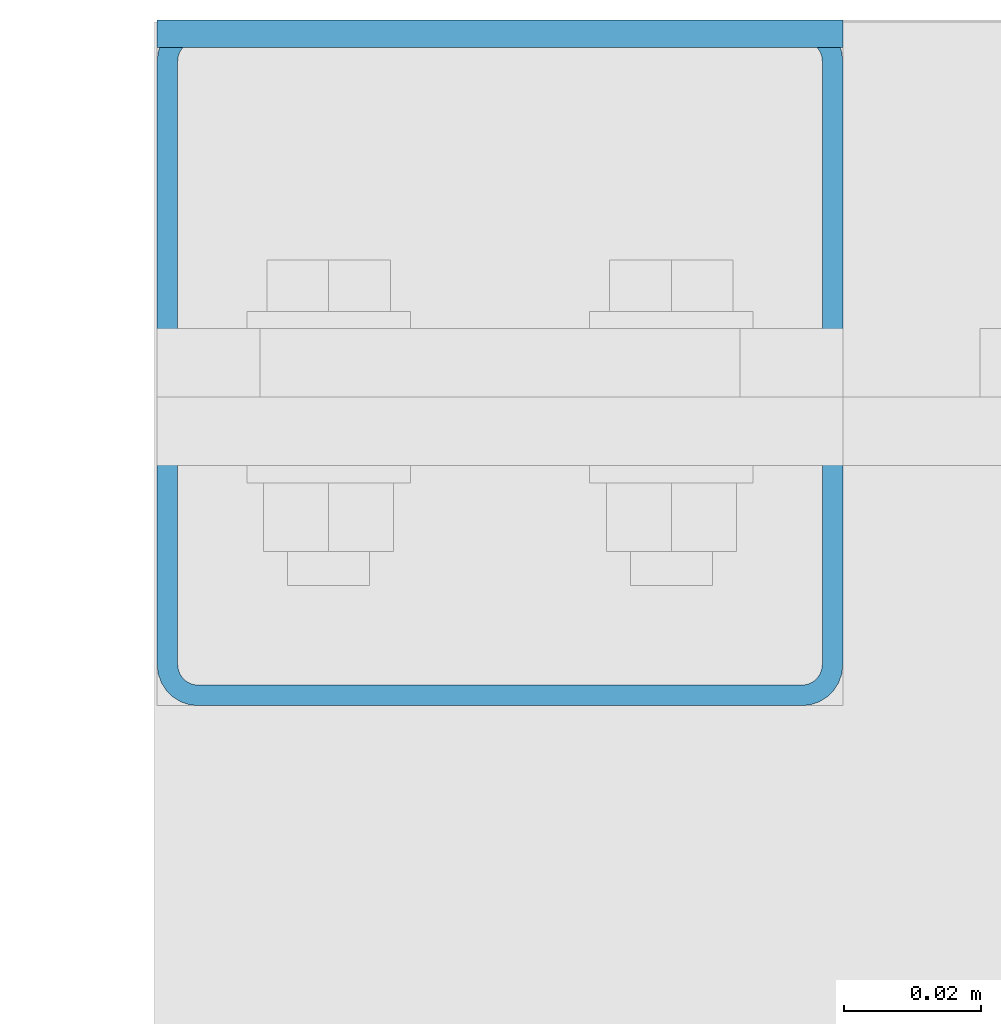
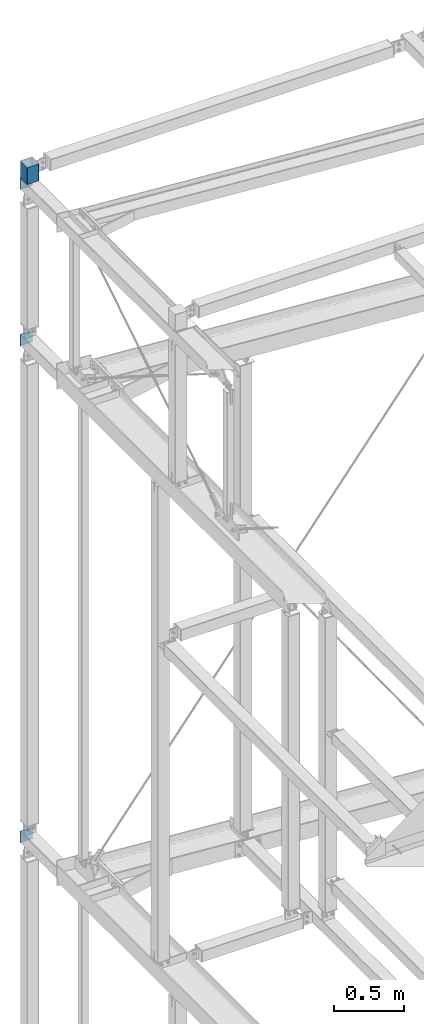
# One storey, part 78 of 271: 4 beams, 3 elements without a shape of their own.
"""IFC2X3 building model written with IfcOpenShell, lengths in millimetres."""

from ifc_helpers import new_model, si_unit, frame, origin_with_axes, origin_2d_with_axis, place, context, subcontext, project, spatial, rectangle, hollow_rectangle, extrude, clip, halfspace, material, type_object, element, aggregate, save


model = new_model("IFC2X3")

# Units and contexts
model_context = context("Model", 3, precision=1e-05, world=origin_with_axes())
body_context = subcontext(model_context, "Body", "Model", "MODEL_VIEW")
ifc_project = project(units=[si_unit("LENGTHUNIT", "METRE", prefix="MILLI"), si_unit("AREAUNIT", "SQUARE_METRE"), si_unit("VOLUMEUNIT", "CUBIC_METRE"), si_unit("MASSUNIT", "GRAM", prefix="KILO"), si_unit("TIMEUNIT", "SECOND"), si_unit("PLANEANGLEUNIT", "RADIAN"), si_unit("SOLIDANGLEUNIT", "STERADIAN"), si_unit("THERMODYNAMICTEMPERATUREUNIT", "DEGREE_CELSIUS"), si_unit("LUMINOUSINTENSITYUNIT", "LUMEN")], contexts=[model_context])

# Site, building, storey
site_placement = place(None, origin_with_axes())
site = spatial("IfcSite", under=ifc_project, at=site_placement, Name="Undefined", CompositionType="ELEMENT")
building_placement = place(site_placement, origin_with_axes())
building = spatial("IfcBuilding", under=site, at=building_placement, Name="Undefined", CompositionType="ELEMENT")
storey_placement = place(building_placement, origin_with_axes())
storey = spatial("IfcBuildingStorey", under=building, at=storey_placement, Name="Undefined", CompositionType="ELEMENT", Elevation=0.0)

# Assembly, beam
assembly_1_placement = place(storey_placement, origin_with_axes())
assembly_1 = element("IfcElementAssembly", 1, at=assembly_1_placement, inside=storey, AssemblyPlace="NOTDEFINED", PredefinedType="RIGID_FRAME")
ifc_material = material(Name="STEEL/S355JR")
beam_type_1 = type_object("IfcBeamType", Name="SHS100*3", PredefinedType="NOTDEFINED")
beam_1_placement = place(assembly_1_placement, frame((38.3756870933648, 4909.32498425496, 20204.3499999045), z_axis=(0.0, 1.0, 0.0), x_axis=(0.0, 0.0, -1.0)))
beam_1 = element("IfcBeam", 2, at=beam_1_placement, type_object=beam_type_1, material=ifc_material, Name="RYGIEL ATTYKOWY", ObjectType="SHS100*3", context=body_context, shape_type="Clipping", body=[
    clip(extrude(hollow_rectangle(XDim=100.0, YDim=100.0, WallThickness=3.0, InnerFilletRadius=3.0, OuterFilletRadius=6.0, at=origin_2d_with_axis()), frame((150.0, 0.0, 0.0), z_axis=(-1.0, 0.0, 1.38777878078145e-17), x_axis=(0.0, -1.0, 0.0)), (0.0, 0.0, 1.0), 150.0), halfspace(frame((4.0, 0.0, -50.0), z_axis=(1.0, 0.0, 0.0), x_axis=(0.0, -1.0, 0.0)), True)),
])

assembly_2_placement = place(storey_placement, origin_with_axes())
assembly_2 = element("IfcElementAssembly", 3, at=assembly_2_placement, inside=storey, AssemblyPlace="NOTDEFINED", PredefinedType="RIGID_FRAME")
beam_type_2 = type_object("IfcBeamType", Name="BL4*100", PredefinedType="NOTDEFINED")
beam_2_placement = place(assembly_2_placement, frame((88.3756870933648, 4957.32498425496, 14324.3499999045), z_axis=(0.0, 0.0, -1.0), x_axis=(-1.0, 0.0, 1.38777878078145e-17)))
beam_2 = element("IfcBeam", 4, at=beam_2_placement, type_object=beam_type_2, material=ifc_material, Name="BLACHA", ObjectType="BL4*100", context=body_context, shape_type="SweptSolid", body=[
    extrude(rectangle(XDim=4.0, YDim=100.0, at=origin_2d_with_axis()), frame((100.0, 0.0, 0.0), z_axis=(-1.0, 0.0, 1.38777878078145e-17), x_axis=(0.0, -1.0, 0.0)), (0.0, 0.0, 1.0), 100.0),
])
aggregate(assembly_2, [beam_2])

assembly_3_placement = place(storey_placement, origin_with_axes())
assembly_3 = element("IfcElementAssembly", 5, at=assembly_3_placement, inside=storey, AssemblyPlace="NOTDEFINED", PredefinedType="RIGID_FRAME")
beam_3_placement = place(assembly_3_placement, frame((88.3756870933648, 4957.32498425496, 18644.3499999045), z_axis=(0.0, 0.0, -1.0), x_axis=(-1.0, 0.0, 1.38777878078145e-17)))
beam_3 = element("IfcBeam", 6, at=beam_3_placement, type_object=beam_type_2, material=ifc_material, Name="BLACHA", ObjectType="BL4*100", context=body_context, shape_type="SweptSolid", body=[
    extrude(rectangle(XDim=4.0, YDim=100.0, at=origin_2d_with_axis()), frame((100.0, 0.0, 0.0), z_axis=(-1.0, 0.0, 1.38777878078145e-17), x_axis=(0.0, -1.0, 0.0)), (0.0, 0.0, 1.0), 100.0),
])
aggregate(assembly_3, [beam_3])

# Beam
beam_4_placement = place(assembly_1_placement, frame((88.3756870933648, 4957.32498425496, 20004.3499999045), z_axis=(0.0, 0.0, -1.0), x_axis=(-1.0, 0.0, 1.38777878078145e-17)))
beam_4 = element("IfcBeam", 7, at=beam_4_placement, type_object=beam_type_2, material=ifc_material, Name="BLACHA", ObjectType="BL4*100", context=body_context, shape_type="SweptSolid", body=[
    extrude(rectangle(XDim=4.0, YDim=100.0, at=origin_2d_with_axis()), frame((100.0, 0.0, 0.0), z_axis=(-1.0, 0.0, 1.38777878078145e-17), x_axis=(0.0, -1.0, 0.0)), (0.0, 0.0, 1.0), 100.0),
])

aggregate(assembly_1, [beam_4, beam_1])

save(model, "model.ifc")
